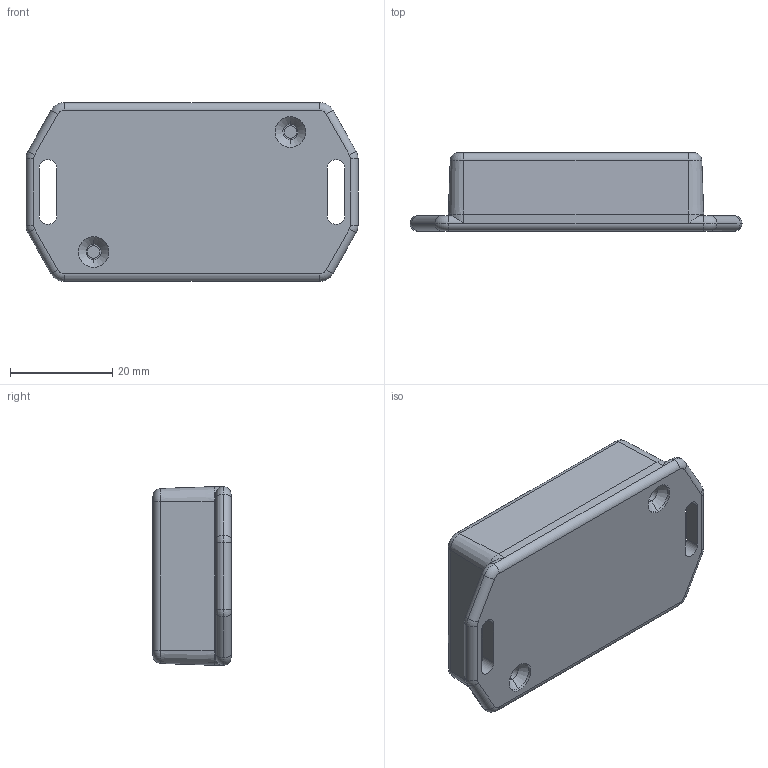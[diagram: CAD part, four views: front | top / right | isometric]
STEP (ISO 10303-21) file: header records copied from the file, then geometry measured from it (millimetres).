
FILE_DESCRIPTION (( 'STEP AP203' ), '1' );
FILE_NAME ('PM003.STEP', '2017-10-02T07:48:20', ( '' ), ( '' ), 'SwSTEP 2.0', 'SolidWorks 2015', '' );
FILE_SCHEMA (( 'CONFIG_CONTROL_DESIGN' ));
Length unit declared in the file: millimetre
Products named in the file (3): PM003
Assembly tree (2 placements, depth 2):
  PM003
    PM003
    PM003
Bounding box: 65 x 15.3 x 35 mm (x, y, z)
Volume: 10809.8 mm3; surface area: 13235.5 mm2
Topology: 2 solids, 2 shells, 170 faces, 417 edges, 266 vertices
Faces by surface type: plane 65, cylinder 49, cone 36, torus 20
Entity records: 5400 total; most frequent: DIRECTION 949, CARTESIAN_POINT 906, ORIENTED_EDGE 834, EDGE_CURVE 417, AXIS2_PLACEMENT_3D 361, VERTEX_POINT 266, LINE 227, VECTOR 227
